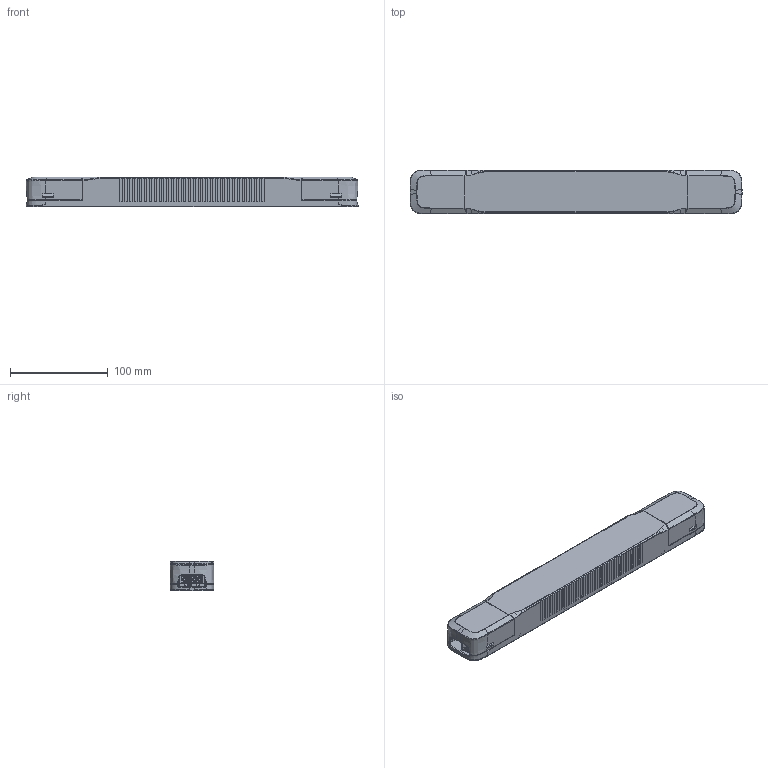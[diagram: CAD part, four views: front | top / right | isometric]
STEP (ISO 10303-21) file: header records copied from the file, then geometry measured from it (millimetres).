
FILE_DESCRIPTION((''),'2;1');
FILE_NAME('ZHUANGPEITU-1108_ASM_25_ASM','2022-01-12T',('tao.su'),(''),'PRO/ENGINEER BY PARAMETRIC TECHNOLOGY CORPORATION, 2010280','PRO/ENGINEER BY PARAMETRIC TECHNOLOGY CORPORATION, 2010280','');
FILE_SCHEMA(('CONFIG_CONTROL_DESIGN'));
Products named in the file (8): BOTTOM-1_52; PCB-16_17; DUANZITAI-4-1108_1; TOP-1108_61; SIDE-1108_10; YAXIANBAN-XX; YAXIANBAN-DD; ZHUANGPEITU-1108_ASM_25_ASM
Assembly tree (11 placements, depth 2):
  ZHUANGPEITU-1108_ASM_25_ASM
    BOTTOM-1_52
    PCB-16_17
    DUANZITAI-4-1108_1  x2
    TOP-1108_61
    SIDE-1108_10  x2
    YAXIANBAN-XX  x2
    YAXIANBAN-DD  x2
Bounding box: 340 x 44.99 x 30.5 mm (x, y, z)
Volume: 104975.2 mm3; surface area: 160222.4 mm2
Topology: 11 solids, 75 shells, 6782 faces, 19424 edges, 12636 vertices
Faces by surface type: plane 4221, cylinder 1824, cone 368, bspline 156, torus 118, extrusion 55, sphere 40
Entity records: 151485 total; most frequent: CARTESIAN_POINT 37606, ORIENTED_EDGE 24918, DIRECTION 22219, EDGE_CURVE 12459, VECTOR 9153, LINE 9110, VERTEX_POINT 8120, AXIS2_PLACEMENT_3D 6533
